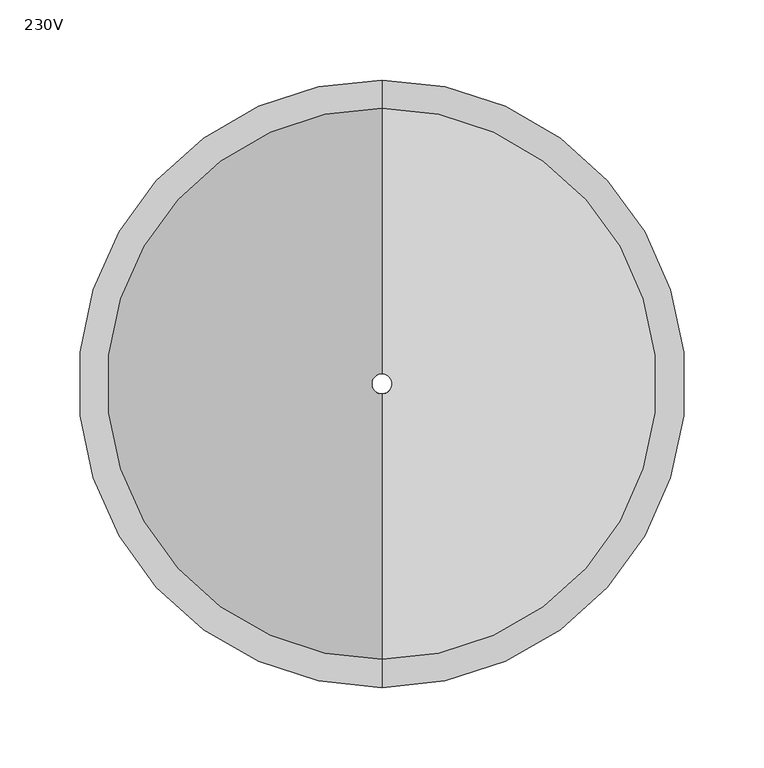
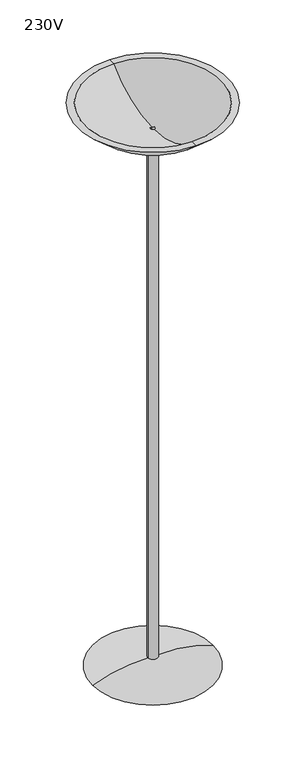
"""IFC4 building model written with IfcOpenShell, lengths in millimetres: light fixture geometry, Lampadaire - Halogène : 230V."""

from ifc_helpers import new_model, si_unit, point, frame, origin, place, context, project, spatial, polyline, circle_curve, ellipse_curve, trimmed, source, transform, mapped, element, save
from ifc_brep_helpers import plane_surface, cylinder_surface, revolved_surface, advanced_brep


def light_fixture_230v_5791e779(model_context):
    return source(origin(), model_context, "Body", "AdvancedBrep", [
        advanced_brep(
        [(-12.7, 0.0, 23.8559377), (12.7, 0.0, 23.8559377), (152.4, 0.0, 0.0), (-152.4, 0.0, 0.0), (-12.7, 0.0, 1419.3755116), (12.7, 0.0, 1419.3755116), (-6.35, 0.0, 1419.3755116), (6.35, 0.0, 1419.3755116), (-6.35, 0.0, 0.0), (6.35, 0.0, 0.0)],
        [
            (0, 1, circle_curve(frame((0.0, 0.0, 23.8559377), z_axis=(0.0, 0.0, -1.0), x_axis=(0.0, 1.0, 0.0)), 12.7)),
            (1, 2, circle_curve(frame((27.9174306, 0.0, -307.9995076), z_axis=(0.0, 1.0, 0.0), x_axis=(1.0, 0.0, 0.0)), 332.2041643)),
            (2, 3, circle_curve(frame((0.0, 0.0, 0.0), z_axis=(0.0, 0.0, 1.0), x_axis=(0.0, 1.0, 0.0)), 152.4)),
            (3, 0, circle_curve(frame((-27.9174306, 0.0, -307.9995076), z_axis=(0.0, 1.0, 0.0), x_axis=(-1.0, 0.0, 0.0)), 332.2041643)),
            (1, 0, circle_curve(frame((0.0, 0.0, 23.8559377), z_axis=(0.0, 0.0, -1.0), x_axis=(0.0, 1.0, 0.0)), 12.7)),
            (3, 2, circle_curve(frame((0.0, 0.0, 0.0), z_axis=(0.0, 0.0, 1.0), x_axis=(0.0, 1.0, 0.0)), 152.4)),
            (4, 5, circle_curve(frame((0.0, 0.0, 1419.3755116), z_axis=(0.0, 0.0, -1.0), x_axis=(0.0, 1.0, 0.0)), 12.7)),
            (5, 1),
            (0, 4),
            (5, 4, circle_curve(frame((0.0, 0.0, 1419.3755116), z_axis=(0.0, 0.0, -1.0), x_axis=(0.0, 1.0, 0.0)), 12.7)),
            (6, 7, circle_curve(frame((0.0, 0.0, 1419.3755116), z_axis=(0.0, 0.0, -1.0), x_axis=(0.0, 1.0, 0.0)), 6.35)),
            (7, 5),
            (4, 6),
            (7, 6, circle_curve(frame((0.0, 0.0, 1419.3755116), z_axis=(0.0, 0.0, -1.0), x_axis=(0.0, 1.0, 0.0)), 6.35)),
            (8, 9, circle_curve(frame((0.0, 0.0, 0.0), z_axis=(0.0, 0.0, -1.0), x_axis=(0.0, 1.0, 0.0)), 6.35)),
            (9, 7),
            (6, 8),
            (9, 8, circle_curve(frame((0.0, 0.0, 0.0), z_axis=(0.0, 0.0, -1.0), x_axis=(0.0, 1.0, 0.0)), 6.35)),
            (2, 9),
            (8, 3),
        ],
        [
            revolved_surface(trimmed(ellipse_curve(frame((0.0, 27.9174306, -307.9995076), z_axis=(1.0, 0.0, 0.0), x_axis=(0.0, 1.0, 0.0)), 332.2041643, 332.2041643), [point((0.0, 152.4, 0.0))], [point((0.0, 12.7, 23.8559377))], True, "CARTESIAN"), (0.0, 0.0, 0.0), (0.0, 0.0, 1.0)),
            cylinder_surface(frame((0.0, 0.0, 0.0), z_axis=(0.0, 0.0, 1.0), x_axis=(0.0, 1.0, 0.0)), 12.7),
            plane_surface(frame((0.0, 0.0, 1419.3755116), z_axis=(0.0, 0.0, 1.0), x_axis=(0.0, 1.0, 0.0))),
            revolved_surface(polyline([(0.0, 6.35, 1419.3755116), (0.0, 6.35, 0.0)]), (0.0, 0.0, 0.0), (0.0, 0.0, 1.0)),
            plane_surface(frame((0.0, 0.0, 0.0), z_axis=(0.0, 0.0, -1.0), x_axis=(0.0, 1.0, 0.0))),
        ],
        [
            (0, [[1, 2, 3, 4]]),
            (0, [[5, -4, 6, -2]]),
            (1, [[7, 8, -1, 9]]),
            (1, [[10, -9, -5, -8]]),
            (2, [[11, 12, -7, 13]]),
            (2, [[14, -13, -10, -12]]),
            (3, [[15, 16, -11, 17]]),
            (3, [[18, -17, -14, -16]]),
            (4, [[-3, 19, -15, 20]]),
            (4, [[-6, -20, -18, -19]]),
        ],
    ),
        advanced_brep(
        [(0.0, -171.9151264, 1500.0), (0.0, 171.9151264, 1500.0), (0.0, 189.6566143, 1500.0), (0.0, -189.6566143, 1500.0), (0.0, -6.35, 1432.0755116), (0.0, 6.35, 1432.0755116), (0.0, -6.35, 1419.3755116), (0.0, 6.35, 1419.3755116), (0.0, -12.7, 1419.3755116), (0.0, 12.7, 1419.3755116)],
        [
            (0, 1, circle_curve(frame((0.0, 0.0, 1500.0), z_axis=(0.0, 0.0, -1.0), x_axis=(0.0, 1.0, 0.0)), 171.9151264)),
            (1, 2),
            (2, 3, circle_curve(frame((0.0, 0.0, 1500.0), z_axis=(0.0, 0.0, 1.0), x_axis=(0.0, 1.0, 0.0)), 189.6566143)),
            (3, 0),
            (1, 0, circle_curve(frame((0.0, 0.0, 1500.0), z_axis=(0.0, 0.0, -1.0), x_axis=(0.0, 1.0, 0.0)), 171.9151264)),
            (3, 2, circle_curve(frame((0.0, 0.0, 1500.0), z_axis=(0.0, 0.0, 1.0), x_axis=(0.0, 1.0, 0.0)), 189.6566143)),
            (4, 5, circle_curve(frame((0.0, 0.0, 1432.0755116), z_axis=(0.0, 0.0, -1.0), x_axis=(0.0, 1.0, 0.0)), 6.35)),
            (5, 1, circle_curve(frame((0.0, 6.35, 1667.8192616), z_axis=(1.0, 0.0, 0.0), x_axis=(0.0, 1.0, 0.0)), 235.74375)),
            (0, 4, circle_curve(frame((0.0, -6.35, 1667.8192616), z_axis=(1.0, 0.0, 0.0), x_axis=(0.0, -1.0, 0.0)), 235.74375)),
            (5, 4, circle_curve(frame((0.0, 0.0, 1432.0755116), z_axis=(0.0, 0.0, -1.0), x_axis=(0.0, 1.0, 0.0)), 6.35)),
            (6, 7, circle_curve(frame((0.0, 0.0, 1419.3755116), z_axis=(0.0, 0.0, -1.0), x_axis=(0.0, 1.0, 0.0)), 6.35)),
            (7, 5),
            (4, 6),
            (7, 6, circle_curve(frame((0.0, 0.0, 1419.3755116), z_axis=(0.0, 0.0, -1.0), x_axis=(0.0, 1.0, 0.0)), 6.35)),
            (8, 9, circle_curve(frame((0.0, 0.0, 1419.3755116), z_axis=(0.0, 0.0, -1.0), x_axis=(0.0, 1.0, 0.0)), 12.7)),
            (9, 7),
            (6, 8),
            (9, 8, circle_curve(frame((0.0, 0.0, 1419.3755116), z_axis=(0.0, 0.0, -1.0), x_axis=(0.0, 1.0, 0.0)), 12.7)),
            (2, 9, circle_curve(frame((0.0, 6.35, 1667.8192616), z_axis=(-1.0, 0.0, 0.0), x_axis=(0.0, 1.0, 0.0)), 248.5248869)),
            (8, 3, circle_curve(frame((0.0, -6.35, 1667.8192616), z_axis=(-1.0, 0.0, 0.0), x_axis=(0.0, -1.0, 0.0)), 248.5248869)),
        ],
        [
            plane_surface(frame((0.0, 0.0, 1500.0), z_axis=(0.0, 0.0, 1.0), x_axis=(0.0, 1.0, 0.0))),
            revolved_surface(trimmed(ellipse_curve(frame((0.0, 6.35, 1667.8192616), z_axis=(-1.0, 0.0, 0.0), x_axis=(0.0, 1.0, 0.0)), 235.74375, 235.74375), [point((0.0, 171.9151264, 1500.0))], [point((0.0, 6.35, 1432.0755116))], True, "CARTESIAN"), (0.0, 0.0, 1652.4), (0.0, 0.0, 1.0)),
            revolved_surface(polyline([(0.0, 6.35, 1432.0755116), (0.0, 6.35, 1419.3755116)]), (0.0, 0.0, 1652.4), (0.0, 0.0, 1.0)),
            plane_surface(frame((0.0, 0.0, 1419.3755116), z_axis=(0.0, 0.0, -1.0), x_axis=(0.0, 1.0, 0.0))),
            revolved_surface(trimmed(ellipse_curve(frame((0.0, 6.35, 1667.8192616), z_axis=(1.0, 0.0, 0.0), x_axis=(0.0, 1.0, 0.0)), 248.5248869, 248.5248869), [point((0.0, 12.7, 1419.3755116))], [point((0.0, 189.6566143, 1500.0))], True, "CARTESIAN"), (0.0, 0.0, 1652.4), (0.0, 0.0, 1.0)),
        ],
        [
            (0, [[1, 2, 3, 4]]),
            (0, [[5, -4, 6, -2]]),
            (1, [[7, 8, -1, 9]]),
            (1, [[10, -9, -5, -8]]),
            (2, [[11, 12, -7, 13]]),
            (2, [[14, -13, -10, -12]]),
            (3, [[15, 16, -11, 17]]),
            (3, [[18, -17, -14, -16]]),
            (4, [[-3, 19, -15, 20]]),
            (4, [[-6, -20, -18, -19]]),
        ],
    ),
    ])


if __name__ == "__main__":
    model = new_model("IFC4")
    model_context = context("Model", 3, world=origin())
    ifc_project = project(units=[si_unit("LENGTHUNIT", "METRE", prefix="MILLI")], contexts=[model_context])
    site = spatial("IfcSite", under=ifc_project)
    building = spatial("IfcBuilding", under=site)
    placement = place(None, origin())
    light_fixture_230v_shape = light_fixture_230v_5791e779(model_context)
    element("IfcLightFixture", 1, ObjectType="Lampadaire - Halogène : 230V", at=placement, inside=building, context=model_context, shape_type="MappedRepresentation", body=[
        mapped(light_fixture_230v_shape, transform((0.0, 0.0, 0.0), x_axis=(1.0, 0.0, 0.0), y_axis=(0.0, 1.0, 0.0), z_axis=(0.0, 0.0, 1.0))),
    ])
    save(model, "model.ifc")
